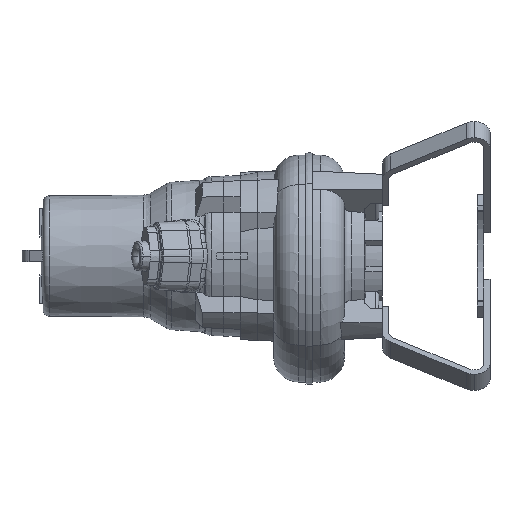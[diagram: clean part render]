
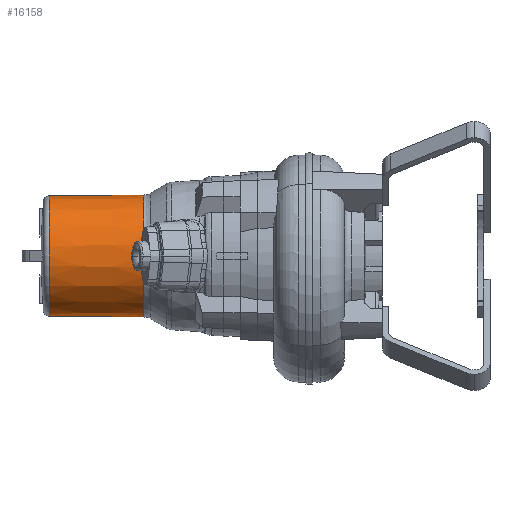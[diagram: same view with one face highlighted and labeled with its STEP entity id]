
A CAD part, left-side view. The second image highlights one B-rep face of the part: STEP entity #16158.
In plain terms, the highlighted conical face has half-angle 0.524 degrees and reference radius 95 mm.
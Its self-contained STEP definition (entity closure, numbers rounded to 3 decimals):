
#2471 = CARTESIAN_POINT ( 'NONE',  ( 0., 288., -95. ) ) ;
#2560 = VERTEX_POINT ( 'NONE', #23583 ) ;
#3006 = CARTESIAN_POINT ( 'NONE',  ( 0., 278.855, 0. ) ) ;
#5549 = AXIS2_PLACEMENT_3D ( 'NONE', #3006, #12990, #18411 ) ;
#6226 = CARTESIAN_POINT ( 'NONE',  ( 0., 278.855, 95.084 ) ) ;
#6774 = CARTESIAN_POINT ( 'NONE',  ( 0., 129.261, 96.452 ) ) ;
#7155 = EDGE_CURVE ( 'NONE', #15220, #28539, #24092, .T. ) ;
#9750 = AXIS2_PLACEMENT_3D ( 'NONE', #29261, #29097, #20137 ) ;
#9799 = FACE_OUTER_BOUND ( 'NONE', #23777, .T. ) ;
#9987 = LINE ( 'NONE', #2471, #27505 ) ;
#11537 = DIRECTION ( 'NONE',  ( 0., -1., -0.009 ) ) ;
#12363 = CONICAL_SURFACE ( 'NONE', #9750, 95., 0.009 ) ;
#12482 = VECTOR ( 'NONE', #18507, 1000. ) ;
#12890 = ORIENTED_EDGE ( 'NONE', *, *, #15269, .T. ) ;
#12990 = DIRECTION ( 'NONE',  ( 0., -1., 0. ) ) ;
#13154 = CARTESIAN_POINT ( 'NONE',  ( 0., 129.261, -96.452 ) ) ;
#13546 = VERTEX_POINT ( 'NONE', #13154 ) ;
#13763 = ORIENTED_EDGE ( 'NONE', *, *, #24282, .T. ) ;
#14412 = DIRECTION ( 'NONE',  ( 0., 1., 0. ) ) ;
#15220 = VERTEX_POINT ( 'NONE', #6226 ) ;
#15269 = EDGE_CURVE ( 'NONE', #13546, #28539, #26049, .T. ) ;
#16158 = ADVANCED_FACE ( 'NONE', ( #9799 ), #12363, .T. ) ;
#16608 = AXIS2_PLACEMENT_3D ( 'NONE', #25066, #14412, #27534 ) ;
#17722 = ORIENTED_EDGE ( 'NONE', *, *, #7155, .F. ) ;
#18411 = DIRECTION ( 'NONE',  ( 0., 0., 1. ) ) ;
#18507 = DIRECTION ( 'NONE',  ( 0., -1., 0.009 ) ) ;
#19704 = CIRCLE ( 'NONE', #5549, 95.084 ) ;
#20137 = DIRECTION ( 'NONE',  ( 0., 0., -1. ) ) ;
#23583 = CARTESIAN_POINT ( 'NONE',  ( 0., 278.855, -95.084 ) ) ;
#23777 = EDGE_LOOP ( 'NONE', ( #17722, #13763, #28407, #12890 ) ) ;
#24092 = LINE ( 'NONE', #31820, #12482 ) ;
#24282 = EDGE_CURVE ( 'NONE', #15220, #2560, #19704, .T. ) ;
#25066 = CARTESIAN_POINT ( 'NONE',  ( 0., 129.261, 0. ) ) ;
#26049 = CIRCLE ( 'NONE', #16608, 96.452 ) ;
#27505 = VECTOR ( 'NONE', #11537, 1000. ) ;
#27534 = DIRECTION ( 'NONE',  ( 0., 0., -1. ) ) ;
#28407 = ORIENTED_EDGE ( 'NONE', *, *, #30082, .T. ) ;
#28539 = VERTEX_POINT ( 'NONE', #6774 ) ;
#29097 = DIRECTION ( 'NONE',  ( 0., -1., 0. ) ) ;
#29261 = CARTESIAN_POINT ( 'NONE',  ( 0., 288., 0. ) ) ;
#30082 = EDGE_CURVE ( 'NONE', #2560, #13546, #9987, .T. ) ;
#31820 = CARTESIAN_POINT ( 'NONE',  ( 0., 288., 95. ) ) ;
